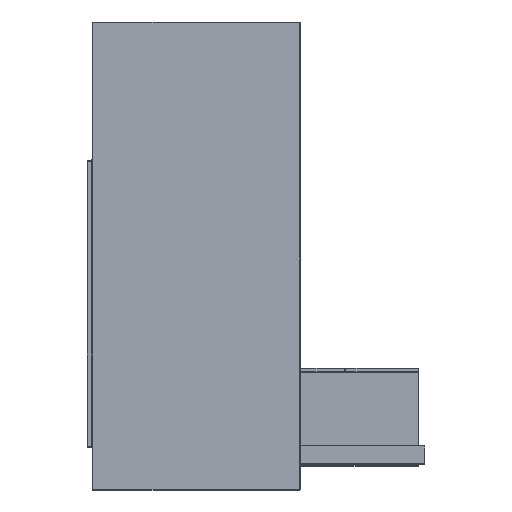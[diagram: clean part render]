
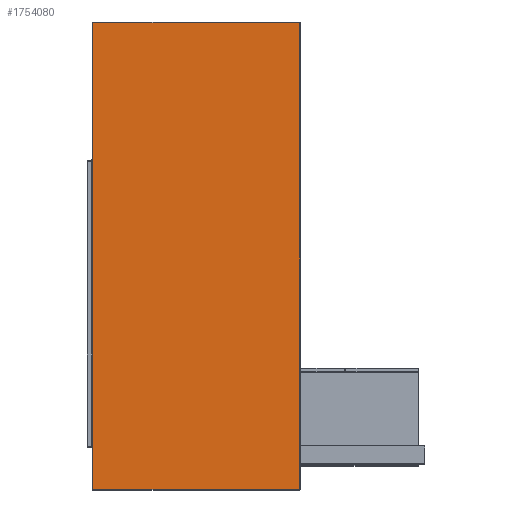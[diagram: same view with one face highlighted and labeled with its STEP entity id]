
A CAD part, top view. The second image highlights one B-rep face of the part: STEP entity #1754080.
In plain terms, the highlighted free-form (B-spline) face has degree [1, 1] with [2, 2] control points.
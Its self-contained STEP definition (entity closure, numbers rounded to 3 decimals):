
#1753730 = CARTESIAN_POINT ('', (-398., 898., 363.425));
#1753740 = VERTEX_POINT ('', #1753730);
#1753750 = CARTESIAN_POINT ('', (-398., -898., 363.425));
#1753760 = VERTEX_POINT ('', #1753750);
#1753770 = CARTESIAN_POINT ('', (-398., 898., 363.425));
#1753780 = CARTESIAN_POINT ('', (-398., -898., 363.425));
#1753790 = (
   BOUNDED_CURVE ()
   B_SPLINE_CURVE (1, (#1753770, #1753780), .UNSPECIFIED., .F., .U.)
   B_SPLINE_CURVE_WITH_KNOTS ((2, 2), (0., 1796.), .UNSPECIFIED.)
   CURVE ()
   GEOMETRIC_REPRESENTATION_ITEM ()
   RATIONAL_B_SPLINE_CURVE ((1., 1.))
   REPRESENTATION_ITEM ('')
);
#1753800 = EDGE_CURVE ('', #1753740, #1753760, #1753790, .T.);
#1753810 = ORIENTED_EDGE ('', *, *, #1753800, .T.);
#1753820 = CARTESIAN_POINT ('', (398., -898., 363.425));
#1753830 = VERTEX_POINT ('', #1753820);
#1753840 = CARTESIAN_POINT ('', (-398., -898., 363.425));
#1753850 = CARTESIAN_POINT ('', (398., -898., 363.425));
#1753860 = (
   BOUNDED_CURVE ()
   B_SPLINE_CURVE (1, (#1753840, #1753850), .UNSPECIFIED., .F., .U.)
   B_SPLINE_CURVE_WITH_KNOTS ((2, 2), (0., 796.), .UNSPECIFIED.)
   CURVE ()
   GEOMETRIC_REPRESENTATION_ITEM ()
   RATIONAL_B_SPLINE_CURVE ((1., 1.))
   REPRESENTATION_ITEM ('')
);
#1753870 = EDGE_CURVE ('', #1753760, #1753830, #1753860, .T.);
#1753880 = ORIENTED_EDGE ('', *, *, #1753870, .T.);
#1753890 = CARTESIAN_POINT ('', (398., 898., 363.425));
#1753900 = VERTEX_POINT ('', #1753890);
#1753910 = CARTESIAN_POINT ('', (398., -898., 363.425));
#1753920 = CARTESIAN_POINT ('', (398., 898., 363.425));
#1753930 = (
   BOUNDED_CURVE ()
   B_SPLINE_CURVE (1, (#1753910, #1753920), .UNSPECIFIED., .F., .U.)
   B_SPLINE_CURVE_WITH_KNOTS ((2, 2), (0., 1796.), .UNSPECIFIED.)
   CURVE ()
   GEOMETRIC_REPRESENTATION_ITEM ()
   RATIONAL_B_SPLINE_CURVE ((1., 1.))
   REPRESENTATION_ITEM ('')
);
#1753940 = EDGE_CURVE ('', #1753830, #1753900, #1753930, .T.);
#1753950 = ORIENTED_EDGE ('', *, *, #1753940, .T.);
#1753960 = CARTESIAN_POINT ('', (398., 898., 363.425));
#1753970 = CARTESIAN_POINT ('', (-398., 898., 363.425));
#1753980 = (
   BOUNDED_CURVE ()
   B_SPLINE_CURVE (1, (#1753960, #1753970), .UNSPECIFIED., .F., .U.)
   B_SPLINE_CURVE_WITH_KNOTS ((2, 2), (0., 796.), .UNSPECIFIED.)
   CURVE ()
   GEOMETRIC_REPRESENTATION_ITEM ()
   RATIONAL_B_SPLINE_CURVE ((1., 1.))
   REPRESENTATION_ITEM ('')
);
#1753990 = EDGE_CURVE ('', #1753900, #1753740, #1753980, .T.);
#1754000 = ORIENTED_EDGE ('', *, *, #1753990, .T.);
#1754010 = EDGE_LOOP ('', (#1753810, #1753880, #1753950, #1754000));
#1754020 = FACE_OUTER_BOUND ('', #1754010, .T.);
#1754030 = CARTESIAN_POINT ('', (1514.332, -2271.497, 363.425));
#1754040 = CARTESIAN_POINT ('', (-1514.332, -2271.497, 363.425));
#1754050 = CARTESIAN_POINT ('', (1514.332, 2271.497, 363.425));
#1754060 = CARTESIAN_POINT ('', (-1514.332, 2271.497, 363.425));
#1754070 = B_SPLINE_SURFACE_WITH_KNOTS ('', 1, 1, ((#1754030, #1754040), (#1754050, #1754060)), .UNSPECIFIED., .F., .F., .U., (2, 2), (2, 2), (0., 1.), (0., 1.), .UNSPECIFIED.);
#1754080 = ADVANCED_FACE ('', (#1754020), #1754070, .T.);
